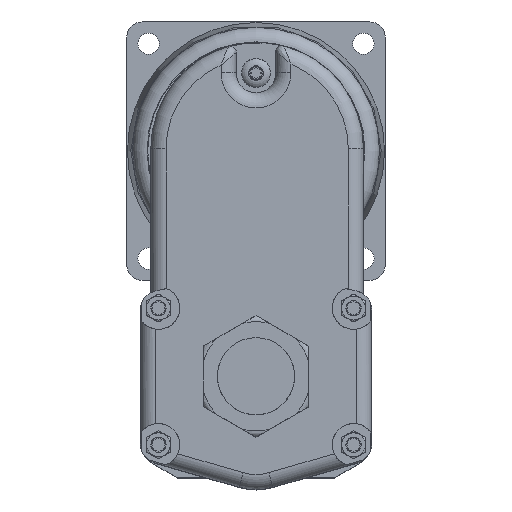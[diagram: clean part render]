
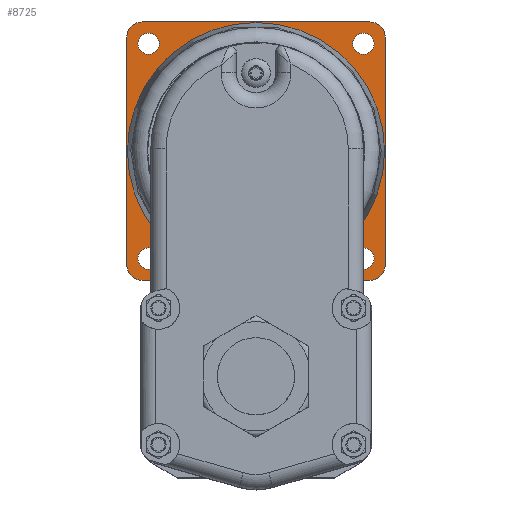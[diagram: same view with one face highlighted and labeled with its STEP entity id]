
A CAD part, top view. The second image highlights one B-rep face of the part: STEP entity #8725.
In plain terms, the highlighted planar face has unit normal (0, 0, 1).
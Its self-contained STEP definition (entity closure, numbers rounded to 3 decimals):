
#937 = CIRCLE ( 'NONE', #8607, 42.331 ) ;
#1017 = LINE ( 'NONE', #10248, #1018 ) ;
#1018 = VECTOR ( 'NONE', #10249, 1000. ) ;
#1019 = LINE ( 'NONE', #10266, #1026 ) ;
#1023 = LINE ( 'NONE', #10288, #1034 ) ;
#1024 = LINE ( 'NONE', #10283, #1032 ) ;
#1025 = CIRCLE ( 'NONE', #1215, 3.5 ) ;
#1026 = VECTOR ( 'NONE', #10267, 1000. ) ;
#1031 = CIRCLE ( 'NONE', #1221, 3.5 ) ;
#1032 = VECTOR ( 'NONE', #10284, 1000. ) ;
#1033 = CIRCLE ( 'NONE', #1222, 5. ) ;
#1034 = VECTOR ( 'NONE', #10289, 1000. ) ;
#1035 = CIRCLE ( 'NONE', #1219, 5. ) ;
#1037 = CIRCLE ( 'NONE', #1223, 5. ) ;
#1040 = CIRCLE ( 'NONE', #1224, 5. ) ;
#1042 = CIRCLE ( 'NONE', #1225, 3.5 ) ;
#1045 = CIRCLE ( 'NONE', #1212, 3.5 ) ;
#1212 = AXIS2_PLACEMENT_3D ( 'NONE', #10299, #10300, #10301 ) ;
#1215 = AXIS2_PLACEMENT_3D ( 'NONE', #10259, #10260, #10261 ) ;
#1219 = AXIS2_PLACEMENT_3D ( 'NONE', #10274, #10281, #10282 ) ;
#1221 = AXIS2_PLACEMENT_3D ( 'NONE', #10251, #10275, #10276 ) ;
#1222 = AXIS2_PLACEMENT_3D ( 'NONE', #10271, #10278, #10279 ) ;
#1223 = AXIS2_PLACEMENT_3D ( 'NONE', #10277, #10286, #10287 ) ;
#1224 = AXIS2_PLACEMENT_3D ( 'NONE', #10280, #10291, #10292 ) ;
#1225 = AXIS2_PLACEMENT_3D ( 'NONE', #10285, #10295, #10296 ) ;
#1566 = AXIS2_PLACEMENT_3D ( 'NONE', #5354, #5357, #5358 ) ;
#4160 = FACE_BOUND ( 'NONE', #11763, .T. ) ;
#4162 = FACE_BOUND ( 'NONE', #11752, .T. ) ;
#4163 = FACE_BOUND ( 'NONE', #11756, .T. ) ;
#4164 = FACE_BOUND ( 'NONE', #11753, .T. ) ;
#4167 = FACE_OUTER_BOUND ( 'NONE', #11755, .T. ) ;
#4169 = FACE_BOUND ( 'NONE', #11754, .T. ) ;
#4374 = VERTEX_POINT ( 'NONE', #9435 ) ;
#5354 = CARTESIAN_POINT ( 'NONE',  ( 42.5, 116.9, -11.3 ) ) ;
#5355 = PLANE ( 'NONE',  #1566 ) ;
#5357 = DIRECTION ( 'NONE',  ( 0., 0., -1. ) ) ;
#5358 = DIRECTION ( 'NONE',  ( -1., 0., 0. ) ) ;
#6323 = CARTESIAN_POINT ( 'NONE',  ( -42.5, 111.9, -11.3 ) ) ;
#6325 = CARTESIAN_POINT ( 'NONE',  ( 37.5, 31.9, -11.3 ) ) ;
#6390 = CARTESIAN_POINT ( 'NONE',  ( -42.5, 36.9, -11.3 ) ) ;
#6400 = CARTESIAN_POINT ( 'NONE',  ( 37.5, 116.9, -11.3 ) ) ;
#6401 = CARTESIAN_POINT ( 'NONE',  ( -37.5, 116.9, -11.3 ) ) ;
#6402 = CARTESIAN_POINT ( 'NONE',  ( 42.5, 111.9, -11.3 ) ) ;
#6403 = CARTESIAN_POINT ( 'NONE',  ( 42.5, 36.9, -11.3 ) ) ;
#6825 = VERTEX_POINT ( 'NONE', #6826 ) ;
#6826 = CARTESIAN_POINT ( 'NONE',  ( -42.331, 74.4, -11.3 ) ) ;
#6837 = VERTEX_POINT ( 'NONE', #6838 ) ;
#6838 = CARTESIAN_POINT ( 'NONE',  ( 38.855, 109.755, -11.3 ) ) ;
#6845 = VERTEX_POINT ( 'NONE', #6846 ) ;
#6846 = CARTESIAN_POINT ( 'NONE',  ( -31.855, 39.045, -11.3 ) ) ;
#6847 = VERTEX_POINT ( 'NONE', #6848 ) ;
#6848 = CARTESIAN_POINT ( 'NONE',  ( 38.855, 39.045, -11.3 ) ) ;
#6849 = VERTEX_POINT ( 'NONE', #6850 ) ;
#6850 = CARTESIAN_POINT ( 'NONE',  ( -31.855, 109.755, -11.3 ) ) ;
#7863 = EDGE_CURVE ( 'NONE', #6825, #6825, #937, .T. ) ;
#7914 = EDGE_CURVE ( 'NONE', #8976, #9044, #1017, .T. ) ;
#7918 = EDGE_CURVE ( 'NONE', #6837, #6837, #1025, .T. ) ;
#7920 = EDGE_CURVE ( 'NONE', #4374, #8978, #1019, .T. ) ;
#7923 = EDGE_CURVE ( 'NONE', #6845, #6845, #1031, .T. ) ;
#7924 = EDGE_CURVE ( 'NONE', #9044, #4374, #1033, .T. ) ;
#7925 = EDGE_CURVE ( 'NONE', #8978, #9057, #1035, .T. ) ;
#7926 = EDGE_CURVE ( 'NONE', #9057, #9056, #1024, .T. ) ;
#7927 = EDGE_CURVE ( 'NONE', #9056, #9054, #1037, .T. ) ;
#7928 = EDGE_CURVE ( 'NONE', #9054, #9055, #1023, .T. ) ;
#7929 = EDGE_CURVE ( 'NONE', #9055, #8976, #1040, .T. ) ;
#7931 = EDGE_CURVE ( 'NONE', #6847, #6847, #1042, .T. ) ;
#7933 = EDGE_CURVE ( 'NONE', #6849, #6849, #1045, .T. ) ;
#8607 = AXIS2_PLACEMENT_3D ( 'NONE', #10120, #10128, #10129 ) ;
#8725 = ADVANCED_FACE ( 'NONE', ( #4160, #4163, #4167, #4169, #4164, #4162 ), #5355, .F. ) ;
#8976 = VERTEX_POINT ( 'NONE', #6323 ) ;
#8978 = VERTEX_POINT ( 'NONE', #6325 ) ;
#9044 = VERTEX_POINT ( 'NONE', #6390 ) ;
#9054 = VERTEX_POINT ( 'NONE', #6400 ) ;
#9055 = VERTEX_POINT ( 'NONE', #6401 ) ;
#9056 = VERTEX_POINT ( 'NONE', #6402 ) ;
#9057 = VERTEX_POINT ( 'NONE', #6403 ) ;
#9435 = CARTESIAN_POINT ( 'NONE',  ( -37.5, 31.9, -11.3 ) ) ;
#10120 = CARTESIAN_POINT ( 'NONE',  ( 0., 74.4, -11.3 ) ) ;
#10128 = DIRECTION ( 'NONE',  ( 0., 0., -1. ) ) ;
#10129 = DIRECTION ( 'NONE',  ( -1., 0., 0. ) ) ;
#10248 = CARTESIAN_POINT ( 'NONE',  ( -42.5, 116.9, -11.3 ) ) ;
#10249 = DIRECTION ( 'NONE',  ( 0., -1., 0. ) ) ;
#10251 = CARTESIAN_POINT ( 'NONE',  ( -35.355, 39.045, -11.3 ) ) ;
#10259 = CARTESIAN_POINT ( 'NONE',  ( 35.355, 109.755, -11.3 ) ) ;
#10260 = DIRECTION ( 'NONE',  ( 0., 0., 1. ) ) ;
#10261 = DIRECTION ( 'NONE',  ( 1., 0., 0. ) ) ;
#10266 = CARTESIAN_POINT ( 'NONE',  ( -42.5, 31.9, -11.3 ) ) ;
#10267 = DIRECTION ( 'NONE',  ( 1., 0., 0. ) ) ;
#10271 = CARTESIAN_POINT ( 'NONE',  ( -37.5, 36.9, -11.3 ) ) ;
#10274 = CARTESIAN_POINT ( 'NONE',  ( 37.5, 36.9, -11.3 ) ) ;
#10275 = DIRECTION ( 'NONE',  ( 0., 0., 1. ) ) ;
#10276 = DIRECTION ( 'NONE',  ( 1., 0., 0. ) ) ;
#10277 = CARTESIAN_POINT ( 'NONE',  ( 37.5, 111.9, -11.3 ) ) ;
#10278 = DIRECTION ( 'NONE',  ( 0., 0., 1. ) ) ;
#10279 = DIRECTION ( 'NONE',  ( -1., 0., 0. ) ) ;
#10280 = CARTESIAN_POINT ( 'NONE',  ( -37.5, 111.9, -11.3 ) ) ;
#10281 = DIRECTION ( 'NONE',  ( 0., 0., 1. ) ) ;
#10282 = DIRECTION ( 'NONE',  ( -1., 0., 0. ) ) ;
#10283 = CARTESIAN_POINT ( 'NONE',  ( 42.5, 116.9, -11.3 ) ) ;
#10284 = DIRECTION ( 'NONE',  ( 0., 1., 0. ) ) ;
#10285 = CARTESIAN_POINT ( 'NONE',  ( 35.355, 39.045, -11.3 ) ) ;
#10286 = DIRECTION ( 'NONE',  ( 0., 0., 1. ) ) ;
#10287 = DIRECTION ( 'NONE',  ( -1., 0., 0. ) ) ;
#10288 = CARTESIAN_POINT ( 'NONE',  ( -42.5, 116.9, -11.3 ) ) ;
#10289 = DIRECTION ( 'NONE',  ( -1., 0., 0. ) ) ;
#10291 = DIRECTION ( 'NONE',  ( 0., 0., 1. ) ) ;
#10292 = DIRECTION ( 'NONE',  ( -1., 0., 0. ) ) ;
#10295 = DIRECTION ( 'NONE',  ( 0., 0., 1. ) ) ;
#10296 = DIRECTION ( 'NONE',  ( 1., 0., 0. ) ) ;
#10299 = CARTESIAN_POINT ( 'NONE',  ( -35.355, 109.755, -11.3 ) ) ;
#10300 = DIRECTION ( 'NONE',  ( 0., 0., 1. ) ) ;
#10301 = DIRECTION ( 'NONE',  ( 1., 0., 0. ) ) ;
#10630 = ORIENTED_EDGE ( 'NONE', *, *, #7918, .F. ) ;
#10631 = ORIENTED_EDGE ( 'NONE', *, *, #7923, .F. ) ;
#10632 = ORIENTED_EDGE ( 'NONE', *, *, #7914, .T. ) ;
#10633 = ORIENTED_EDGE ( 'NONE', *, *, #7924, .T. ) ;
#10634 = ORIENTED_EDGE ( 'NONE', *, *, #7920, .T. ) ;
#10635 = ORIENTED_EDGE ( 'NONE', *, *, #7925, .T. ) ;
#10636 = ORIENTED_EDGE ( 'NONE', *, *, #7926, .T. ) ;
#10637 = ORIENTED_EDGE ( 'NONE', *, *, #7927, .T. ) ;
#10638 = ORIENTED_EDGE ( 'NONE', *, *, #7928, .T. ) ;
#10639 = ORIENTED_EDGE ( 'NONE', *, *, #7929, .T. ) ;
#10640 = ORIENTED_EDGE ( 'NONE', *, *, #7931, .F. ) ;
#10641 = ORIENTED_EDGE ( 'NONE', *, *, #7933, .F. ) ;
#10642 = ORIENTED_EDGE ( 'NONE', *, *, #7863, .T. ) ;
#11752 = EDGE_LOOP ( 'NONE', ( #10642 ) ) ;
#11753 = EDGE_LOOP ( 'NONE', ( #10641 ) ) ;
#11754 = EDGE_LOOP ( 'NONE', ( #10640 ) ) ;
#11755 = EDGE_LOOP ( 'NONE', ( #10632, #10633, #10634, #10635, #10636, #10637, #10638, #10639 ) ) ;
#11756 = EDGE_LOOP ( 'NONE', ( #10631 ) ) ;
#11763 = EDGE_LOOP ( 'NONE', ( #10630 ) ) ;
